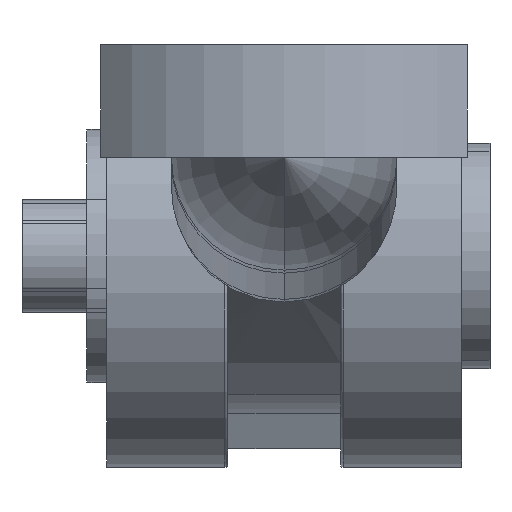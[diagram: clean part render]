
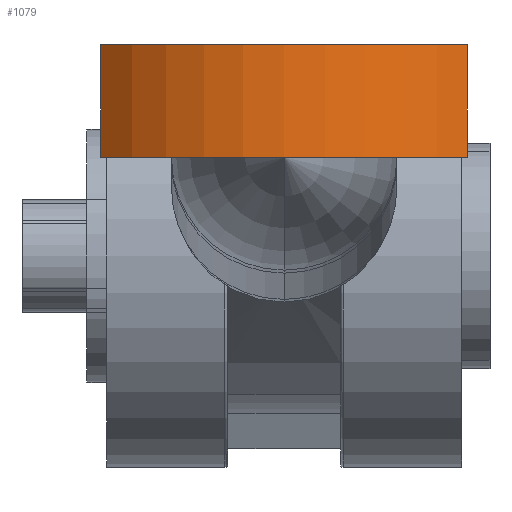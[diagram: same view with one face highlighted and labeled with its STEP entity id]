
A CAD part, front view. The second image highlights one B-rep face of the part: STEP entity #1079.
In plain terms, the highlighted cylindrical face has radius 9.057 mm (diameter 18.114 mm), a partial arc.
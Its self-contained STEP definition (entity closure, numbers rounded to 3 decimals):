
#111 = CARTESIAN_POINT ( 'NONE',  ( 6.5, -34.25, 4. ) ) ;
#199 = CARTESIAN_POINT ( 'NONE',  ( 6.5, -34.25, 4. ) ) ;
#362 = CARTESIAN_POINT ( 'NONE',  ( -6.5, -34.25, 4. ) ) ;
#364 = VERTEX_POINT ( 'NONE', #2058 ) ;
#383 = LINE ( 'NONE', #199, #2188 ) ;
#472 = EDGE_CURVE ( 'NONE', #1057, #1697, #932, .T. ) ;
#566 = CARTESIAN_POINT ( 'NONE',  ( 0., -27.943, 0. ) ) ;
#618 = CARTESIAN_POINT ( 'NONE',  ( -6.5, -34.25, 4. ) ) ;
#626 = ORIENTED_EDGE ( 'NONE', *, *, #1982, .T. ) ;
#646 = LINE ( 'NONE', #618, #1517 ) ;
#694 = ORIENTED_EDGE ( 'NONE', *, *, #1927, .F. ) ;
#730 = DIRECTION ( 'NONE',  ( 0., 0., -1. ) ) ;
#744 = DIRECTION ( 'NONE',  ( 1., 0., 0. ) ) ;
#764 = CARTESIAN_POINT ( 'NONE',  ( 0., -27.943, 4. ) ) ;
#797 = DIRECTION ( 'NONE',  ( 0., 0., -1. ) ) ;
#909 = AXIS2_PLACEMENT_3D ( 'NONE', #764, #1987, #1810 ) ;
#932 = CIRCLE ( 'NONE', #1850, 9.057 ) ;
#1057 = VERTEX_POINT ( 'NONE', #362 ) ;
#1079 = ADVANCED_FACE ( 'NONE', ( #1269 ), #2142, .T. ) ;
#1146 = DIRECTION ( 'NONE',  ( 0., 0., 1. ) ) ;
#1170 = EDGE_CURVE ( 'NONE', #1057, #364, #646, .T. ) ;
#1204 = CIRCLE ( 'NONE', #2166, 9.057 ) ;
#1269 = FACE_OUTER_BOUND ( 'NONE', #2161, .T. ) ;
#1323 = CARTESIAN_POINT ( 'NONE',  ( 0., -27.943, 4. ) ) ;
#1517 = VECTOR ( 'NONE', #797, 1000. ) ;
#1650 = VERTEX_POINT ( 'NONE', #1853 ) ;
#1697 = VERTEX_POINT ( 'NONE', #111 ) ;
#1789 = DIRECTION ( 'NONE',  ( 0., 0., 1. ) ) ;
#1810 = DIRECTION ( 'NONE',  ( -1., 0., 0. ) ) ;
#1850 = AXIS2_PLACEMENT_3D ( 'NONE', #1323, #1146, #2194 ) ;
#1853 = CARTESIAN_POINT ( 'NONE',  ( 6.5, -34.25, 0. ) ) ;
#1927 = EDGE_CURVE ( 'NONE', #1697, #1650, #383, .T. ) ;
#1982 = EDGE_CURVE ( 'NONE', #364, #1650, #1204, .T. ) ;
#1987 = DIRECTION ( 'NONE',  ( 0., 0., -1. ) ) ;
#2058 = CARTESIAN_POINT ( 'NONE',  ( -6.5, -34.25, 0. ) ) ;
#2099 = ORIENTED_EDGE ( 'NONE', *, *, #1170, .T. ) ;
#2142 = CYLINDRICAL_SURFACE ( 'NONE', #909, 9.057 ) ;
#2161 = EDGE_LOOP ( 'NONE', ( #626, #694, #2174, #2099 ) ) ;
#2166 = AXIS2_PLACEMENT_3D ( 'NONE', #566, #1789, #744 ) ;
#2174 = ORIENTED_EDGE ( 'NONE', *, *, #472, .F. ) ;
#2188 = VECTOR ( 'NONE', #730, 1000. ) ;
#2194 = DIRECTION ( 'NONE',  ( 1., 0., 0. ) ) ;
